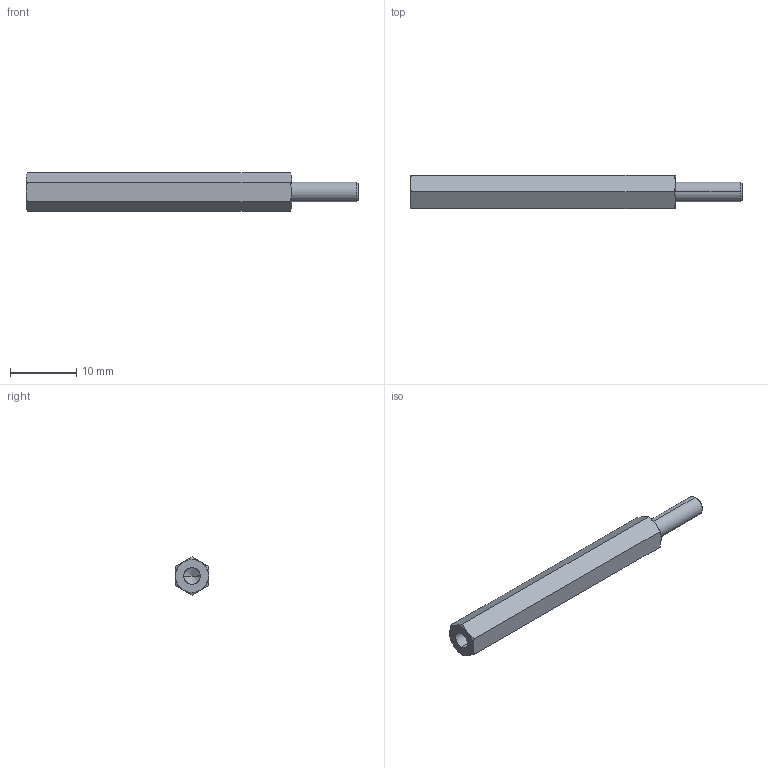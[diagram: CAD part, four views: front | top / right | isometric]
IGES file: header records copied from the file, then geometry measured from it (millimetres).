
Start section: SolidWorks IGES file using analytic representation for surfaces
Global section: file name: C:\Users\render1\Desktop\P0185_IGES\P0185.03-40.igs; native system: SolidWorks 2009; preprocessor: SolidWorks 2009; author: render1; date: 130627.111832; units: millimetre
Bounding box: 50 x 5 x 5.77 mm (x, y, z)
Surface area: 906.2 mm2 (no closed solid volume)
Topology: 0 solids, 0 shells, 29 faces, 324 edges, 322 vertices
Faces by surface type: revolution 20, bspline 9
